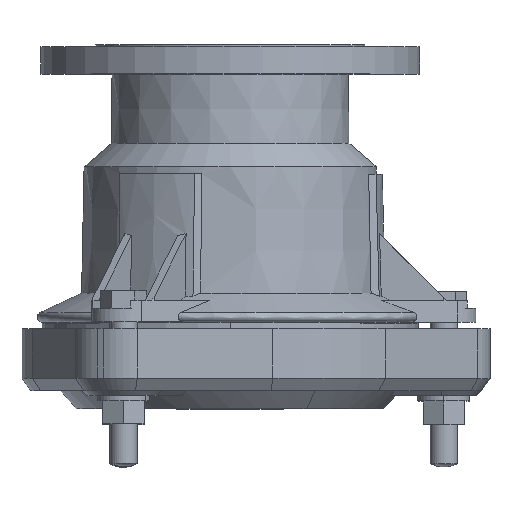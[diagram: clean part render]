
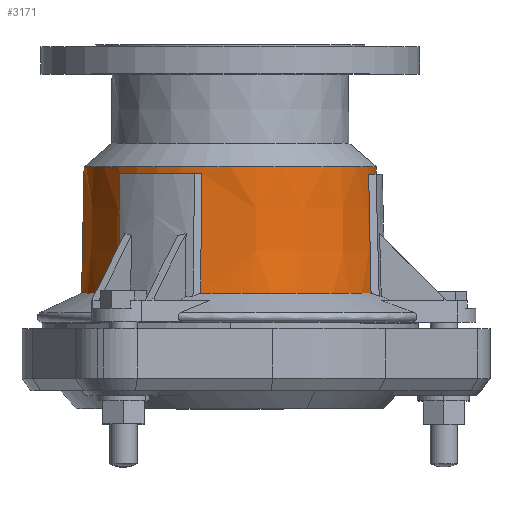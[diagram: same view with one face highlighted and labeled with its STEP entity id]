
A CAD part, top view. The second image highlights one B-rep face of the part: STEP entity #3171.
In plain terms, the highlighted conical face has half-angle 1.147 degrees and reference radius 85.534 mm.
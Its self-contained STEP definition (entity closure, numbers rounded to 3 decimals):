
#345=CARTESIAN_POINT('',(-17.116,-144.16,84.554));
#347=CARTESIAN_POINT('',(81.784,-144.16,27.454));
#448=CARTESIAN_POINT('',(81.784,-144.16,-27.454));
#491=CARTESIAN_POINT('',(-64.668,-144.16,57.1));
#763=DIRECTION('',(-0.02,-1.,0.));
#764=VECTOR('',#763,73.413);
#765=CARTESIAN_POINT('',(-84.8,-70.762,
0.));
#766=LINE('',#765,#764);
#796=DIRECTION('',(0.01,-1.,-0.017));
#797=VECTOR('',#796,73.413);
#798=CARTESIAN_POINT('',(42.4,-70.762,-73.439));
#799=LINE('',#798,#797);
#800=CARTESIAN_POINT('',(0.,-144.16,0.));
#801=DIRECTION('',(0.,-1.,0.));
#802=DIRECTION('',(0.5,0.,-0.866));
#803=AXIS2_PLACEMENT_3D('',#800,#801,#802);
#805=CARTESIAN_POINT('',(81.784,-144.16,-27.454));
#806=CARTESIAN_POINT('',(81.629,-136.407,-27.427));
#807=CARTESIAN_POINT('',(81.321,-120.947,-27.375));
#808=CARTESIAN_POINT('',(80.86,-97.894,-27.297));
#809=CARTESIAN_POINT('',(80.554,-82.616,-27.246));
#810=CARTESIAN_POINT('',(80.402,-75.,-27.22));
#812=CARTESIAN_POINT('',(0.,-75.,0.));
#813=DIRECTION('',(0.,-1.,0.));
#814=DIRECTION('',(0.947,0.,-0.321));
#815=AXIS2_PLACEMENT_3D('',#812,#813,#814);
#817=CARTESIAN_POINT('',(80.402,-75.,27.22));
#818=CARTESIAN_POINT('',(80.554,-82.616,27.246));
#819=CARTESIAN_POINT('',(80.86,-97.894,27.297));
#820=CARTESIAN_POINT('',(81.321,-120.947,27.375));
#821=CARTESIAN_POINT('',(81.629,-136.407,27.427));
#822=CARTESIAN_POINT('',(81.784,-144.16,27.454));
#824=CARTESIAN_POINT('',(0.,-144.16,0.));
#825=DIRECTION('',(0.,-1.,0.));
#826=DIRECTION('',(0.948,0.,0.318));
#827=AXIS2_PLACEMENT_3D('',#824,#825,#826);
#829=CARTESIAN_POINT('',(-17.116,-144.16,84.554));
#830=CARTESIAN_POINT('',(-17.062,-136.407,84.407));
#831=CARTESIAN_POINT('',(-16.953,-120.947,84.113));
#832=CARTESIAN_POINT('',(-16.79,-97.894,83.675));
#833=CARTESIAN_POINT('',(-16.681,-82.616,83.385));
#834=CARTESIAN_POINT('',(-16.627,-75.,83.24));
#836=CARTESIAN_POINT('',(0.,-75.,0.));
#837=DIRECTION('',(0.,-1.,0.));
#838=DIRECTION('',(-0.196,0.,0.981));
#839=AXIS2_PLACEMENT_3D('',#836,#837,#838);
#841=CARTESIAN_POINT('',(-63.775,-75.,56.02));
#842=CARTESIAN_POINT('',(-63.873,-82.616,56.139));
#843=CARTESIAN_POINT('',(-64.07,-97.894,56.378));
#844=CARTESIAN_POINT('',(-64.368,-120.947,56.738));
#845=CARTESIAN_POINT('',(-64.568,-136.407,56.979));
#846=CARTESIAN_POINT('',(-64.668,-144.16,57.1));
#848=CARTESIAN_POINT('',(0.,-144.16,0.));
#849=DIRECTION('',(0.,-1.,0.));
#850=DIRECTION('',(-0.75,0.,0.662));
#851=AXIS2_PLACEMENT_3D('',#848,#849,#850);
#1365=CARTESIAN_POINT('',(0.,-70.762,0.));
#1366=DIRECTION('',(0.,-1.,0.));
#1367=DIRECTION('',(0.5,0.,-0.866));
#1368=AXIS2_PLACEMENT_3D('',#1365,#1366,#1367);
#2018=CARTESIAN_POINT('',(42.4,-70.762,
-73.439));
#2019=CARTESIAN_POINT('',(43.135,-144.16,
-74.711));
#2020=VERTEX_POINT('',#2018);
#2021=VERTEX_POINT('',#2019);
#2044=CARTESIAN_POINT('',(-84.8,-70.762,
0.));
#2045=CARTESIAN_POINT('',(-86.269,-144.16,
0.));
#2046=VERTEX_POINT('',#2044);
#2047=VERTEX_POINT('',#2045);
#2227=VERTEX_POINT('',#448);
#2228=VERTEX_POINT('',#347);
#2230=VERTEX_POINT('',#810);
#2231=VERTEX_POINT('',#817);
#2261=VERTEX_POINT('',#345);
#2262=VERTEX_POINT('',#491);
#2264=VERTEX_POINT('',#834);
#2265=VERTEX_POINT('',#841);
#3145=CARTESIAN_POINT('',(0.,-107.461,0.));
#3146=DIRECTION('',(0.,-1.,0.));
#3147=DIRECTION('',(-0.5,0.,0.866));
#3148=AXIS2_PLACEMENT_3D('',#3145,#3146,#3147);
#3149=CONICAL_SURFACE('',#3148,85.535,1.147);
#3150=ORIENTED_EDGE('',*,*,#3129,.T.);
#3151=ORIENTED_EDGE('',*,*,#2650,.T.);
#3153=ORIENTED_EDGE('',*,*,#3152,.T.);
#3155=ORIENTED_EDGE('',*,*,#3154,.T.);
#3157=ORIENTED_EDGE('',*,*,#3156,.T.);
#3158=ORIENTED_EDGE('',*,*,#2630,.T.);
#3160=ORIENTED_EDGE('',*,*,#3159,.T.);
#3162=ORIENTED_EDGE('',*,*,#3161,.T.);
#3164=ORIENTED_EDGE('',*,*,#3163,.T.);
#3165=ORIENTED_EDGE('',*,*,#2698,.T.);
#3166=ORIENTED_EDGE('',*,*,#3133,.F.);
#3168=ORIENTED_EDGE('',*,*,#3167,.F.);
#3169=EDGE_LOOP('',(#3150,#3151,#3153,#3155,#3157,#3158,#3160,#3162,#3164,#3165,
#3166,#3168));
#3170=FACE_OUTER_BOUND('',#3169,.F.);
#3171=ADVANCED_FACE('',(#3170),#3149,.T.);
#804=CIRCLE('',#803,86.269);
#811=B_SPLINE_CURVE_WITH_KNOTS('',3,(#805,#806,#807,#808,#809,#810),
.UNSPECIFIED.,.F.,.F.,(4,1,1,4),(0.,0.333,0.667,1.),
.UNSPECIFIED.);
#816=CIRCLE('',#815,84.885);
#823=B_SPLINE_CURVE_WITH_KNOTS('',3,(#817,#818,#819,#820,#821,#822),
.UNSPECIFIED.,.F.,.F.,(4,1,1,4),(0.,0.333,0.667,1.),
.UNSPECIFIED.);
#828=CIRCLE('',#827,86.269);
#835=B_SPLINE_CURVE_WITH_KNOTS('',3,(#829,#830,#831,#832,#833,#834),
.UNSPECIFIED.,.F.,.F.,(4,1,1,4),(0.,0.333,0.667,1.),
.UNSPECIFIED.);
#840=CIRCLE('',#839,84.885);
#847=B_SPLINE_CURVE_WITH_KNOTS('',3,(#841,#842,#843,#844,#845,#846),
.UNSPECIFIED.,.F.,.F.,(4,1,1,4),(0.,0.333,0.667,1.),
.UNSPECIFIED.);
#852=CIRCLE('',#851,86.269);
#1369=CIRCLE('',#1368,84.8);
#2630=EDGE_CURVE('',#2228,#2261,#828,.T.);
#2650=EDGE_CURVE('',#2021,#2227,#804,.T.);
#2698=EDGE_CURVE('',#2262,#2047,#852,.T.);
#3129=EDGE_CURVE('',#2020,#2021,#799,.T.);
#3133=EDGE_CURVE('',#2046,#2047,#766,.T.);
#3152=EDGE_CURVE('',#2227,#2230,#811,.T.);
#3154=EDGE_CURVE('',#2230,#2231,#816,.T.);
#3156=EDGE_CURVE('',#2231,#2228,#823,.T.);
#3159=EDGE_CURVE('',#2261,#2264,#835,.T.);
#3161=EDGE_CURVE('',#2264,#2265,#840,.T.);
#3163=EDGE_CURVE('',#2265,#2262,#847,.T.);
#3167=EDGE_CURVE('',#2020,#2046,#1369,.T.);
